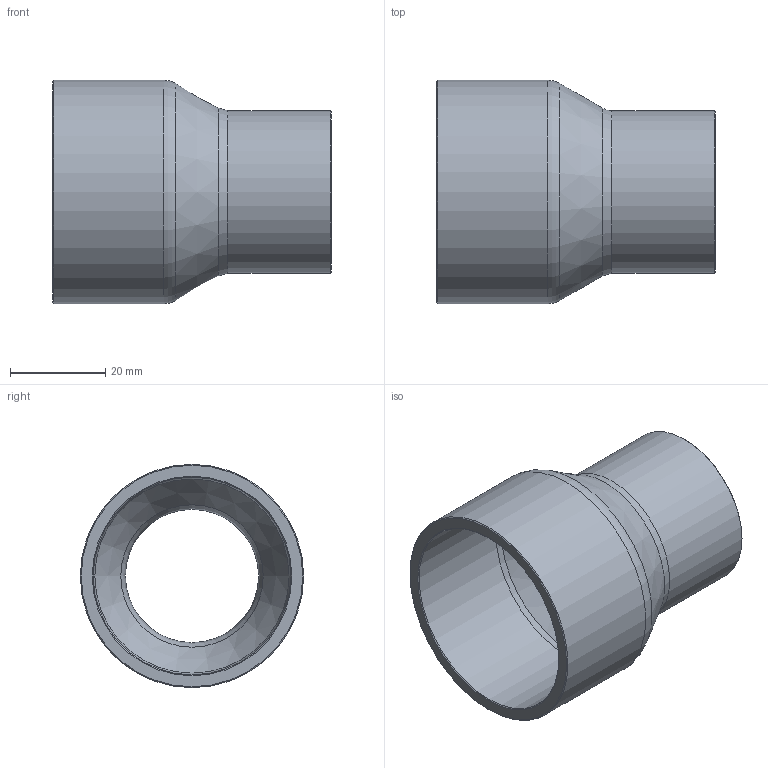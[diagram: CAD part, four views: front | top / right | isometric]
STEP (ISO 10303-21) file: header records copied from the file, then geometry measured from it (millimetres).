
FILE_DESCRIPTION((''),'2;1');
FILE_NAME('G:\SANHA-Ternat\Technik\Management\Bouwmaten + markeringen\z-maattekeningen 3D\29000s\29240158118_3d.stp','2017-08-04T11:55:37',('vdvijverd'),(''),'Autodesk Inventor 2009','Autodesk Inventor 2009','');
FILE_SCHEMA(('AUTOMOTIVE_DESIGN { 1 0 10303 214 1 1 1 1 }'));
Length unit declared in the file: millimetre
Products named in the file (1): 29240158118_3d
Bounding box: 58.4 x 46.85 x 46.85 mm (x, y, z)
Volume: 19875.4 mm3; surface area: 14868.4 mm2
Topology: 1 solids, 1 shells, 17 faces, 32 edges, 17 vertices
Faces by surface type: cone 6, cylinder 4, bspline 3, plane 2, torus 2
Full cylindrical faces by diameter (mm): 28.725 x1, 34.125 x1, 41.455 x1, 46.855 x1
Entity records: 494 total; most frequent: CARTESIAN_POINT 184, DIRECTION 64, ORIENTED_EDGE 34, EDGE_LOOP 34, AXIS2_PLACEMENT_3D 32, VERTEX_POINT 17, CIRCLE 17, EDGE_CURVE 17
